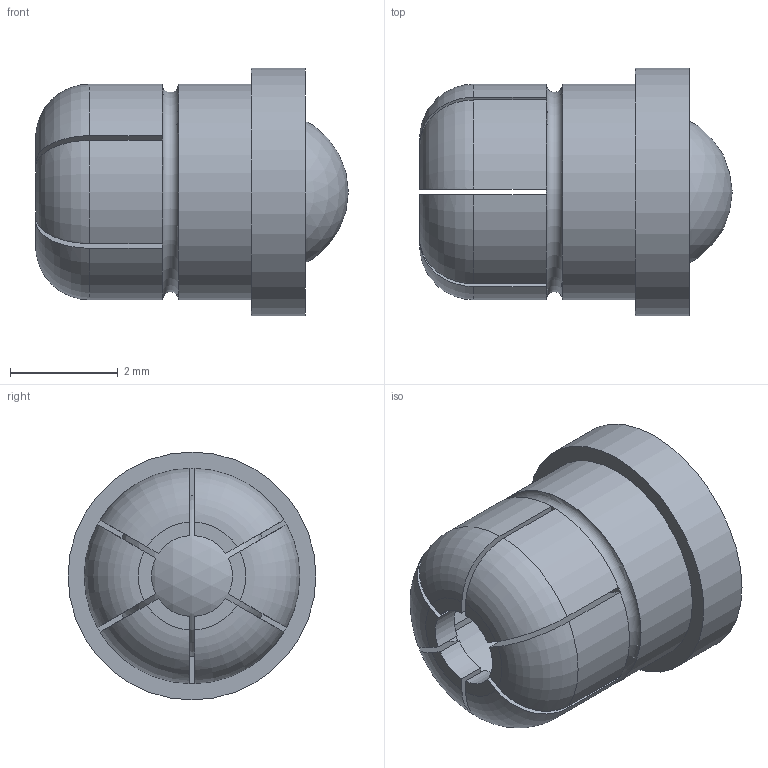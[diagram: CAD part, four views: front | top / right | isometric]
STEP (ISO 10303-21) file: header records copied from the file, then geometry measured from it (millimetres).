
FILE_DESCRIPTION( ( 'STEP AP203' ), '1' );
FILE_NAME( 'C:/Temp/Ganter_Step_05_03_2020/data/3_1/gn_614_5/Spring plunger GN 614.5-4-KD (deactivated).stp', '2020-03-12T09:12:47', ( 'License CC BY-ND 4.0' ), ( 'CADENAS' ), ' ', 'PARTsolutions', ' ' );
FILE_SCHEMA( ( 'CONFIG_CONTROL_DESIGN' ) );
Length unit declared in the file: millimetre
Products named in the file (1): _Spring plunger GN 614.5-4-KD (deactivated)
Bounding box: 5.8 x 4.6 x 4.6 mm (x, y, z)
Volume: 45.5 mm3; surface area: 168.2 mm2
Topology: 1 solids, 1 shells, 63 faces, 165 edges, 106 vertices
Faces by surface type: plane 32, cylinder 16, torus 13, sphere 2
Full cylindrical faces by diameter (mm): 2.98 x2, 4 x1, 4.6 x1
Entity records: 2048 total; most frequent: CARTESIAN_POINT 484, DIRECTION 322, ORIENTED_EDGE 314, EDGE_CURVE 157, AXIS2_PLACEMENT_3D 125, VERTEX_POINT 103, LINE 72, VECTOR 72
